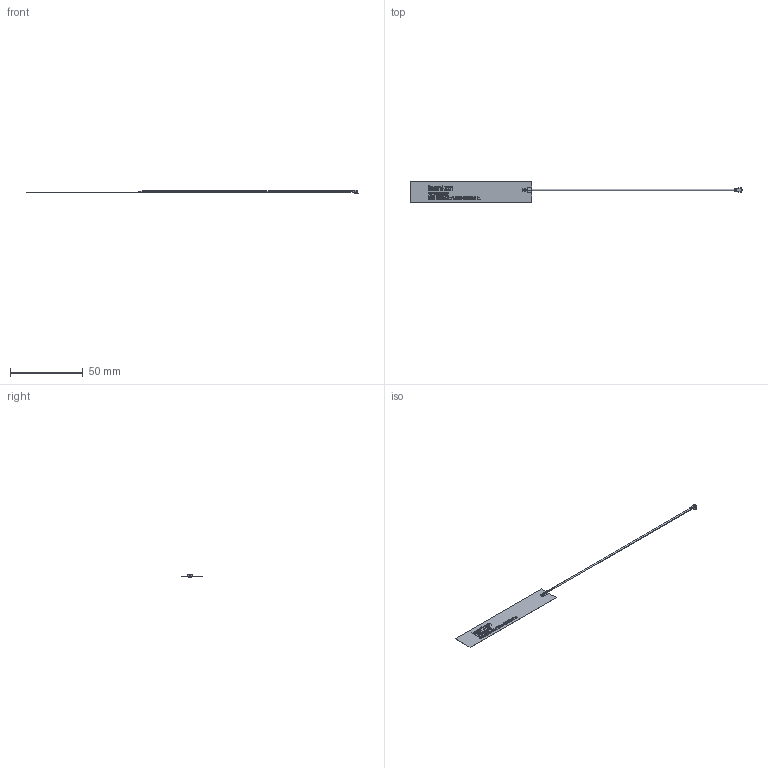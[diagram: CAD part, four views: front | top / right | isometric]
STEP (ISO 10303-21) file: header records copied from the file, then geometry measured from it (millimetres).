
FILE_DESCRIPTION(('STEP AP214'),'1');
FILE_NAME('LK1830301-3DS-2.stp','2025-05-31T13:10:26',('Administrator'),(' '),'Spatial InterOp 3D','CST ACIS InterOp Converter 2021',' ');
FILE_SCHEMA(('AUTOMOTIVE_DESIGN { 1 0 10303 214 1 1 1 1 }'));
Length unit declared in the file: millimetre
Products named in the file (1): LK1830301|LK1850801
Bounding box: 228.84 x 14.5 x 2.15 mm (x, y, z)
Volume: 281 mm3; surface area: 3047.6 mm2
Topology: 1 solids, 1 shells, 5597 faces, 16592 edges, 11053 vertices
Faces by surface type: plane 5508, cylinder 47, cone 27, torus 13, bspline 2
Entity records: 183986 total; most frequent: CARTESIAN_POINT 33922, ORIENTED_EDGE 33180, DIRECTION 27814, EDGE_CURVE 16590, LINE 16410, VECTOR 16410, VERTEX_POINT 11053, AXIS2_PLACEMENT_3D 5702
